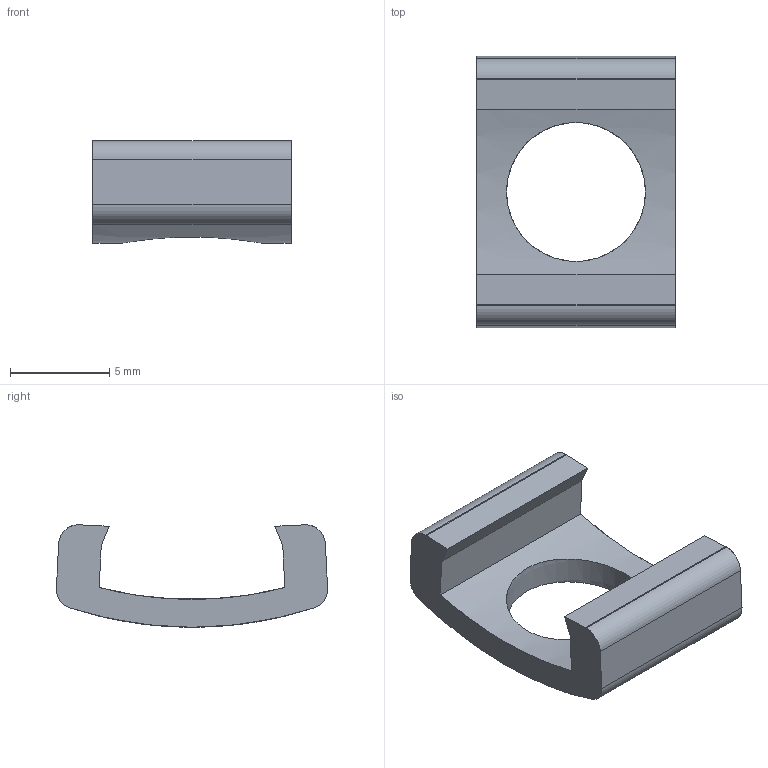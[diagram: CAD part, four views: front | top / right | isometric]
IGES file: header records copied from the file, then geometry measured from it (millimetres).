
Start section: SolidWorks IGES file using analytic representation for surfaces
Global section: file name: C:\Users\admin\Desktop\IGES\J3NE.igs; native system: SolidWorks 2014; preprocessor: SolidWorks 2014; author: admin_pc; date: 170524.165534; units: millimetre
Bounding box: 10 x 13.67 x 5.16 mm (x, y, z)
Surface area: 432.2 mm2 (no closed solid volume)
Topology: 0 solids, 0 shells, 20 faces, 280 edges, 280 vertices
Faces by surface type: revolution 10, bspline 10
